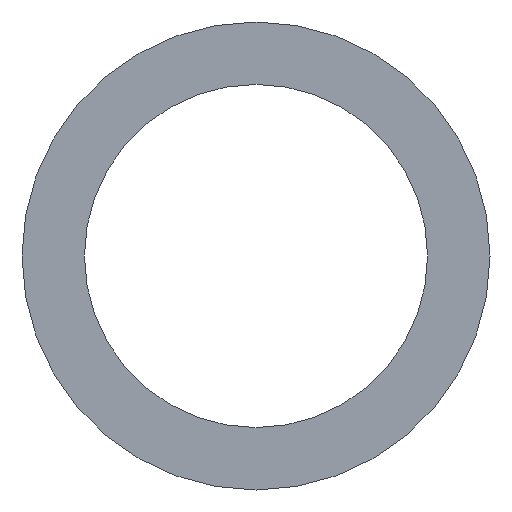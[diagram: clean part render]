
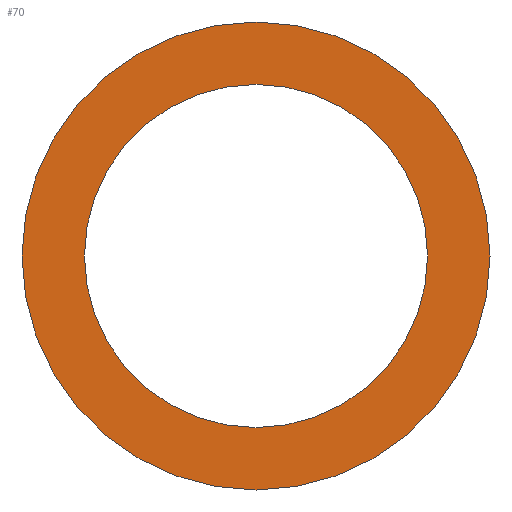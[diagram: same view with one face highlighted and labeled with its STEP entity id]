
A CAD part, front view. The second image highlights one B-rep face of the part: STEP entity #70.
In plain terms, the highlighted planar face has unit normal (0, -1, 0).
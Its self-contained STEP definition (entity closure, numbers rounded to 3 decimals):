
#31 = VERTEX_POINT('',#32);
#32 = CARTESIAN_POINT('',(0.,-31.9,51.75));
#38 = EDGE_CURVE('',#31,#31,#39,.T.);
#39 = CIRCLE('',#40,19.5);
#40 = AXIS2_PLACEMENT_3D('',#41,#42,#43);
#41 = CARTESIAN_POINT('',(0.,-31.9,32.25));
#42 = DIRECTION('',(0.,1.,0.));
#43 = DIRECTION('',(0.,0.,1.));
#70 = ADVANCED_FACE('',(#71,#74),#85,.F.);
#71 = FACE_BOUND('',#72,.F.);
#72 = EDGE_LOOP('',(#73));
#73 = ORIENTED_EDGE('',*,*,#38,.T.);
#74 = FACE_BOUND('',#75,.F.);
#75 = EDGE_LOOP('',(#76));
#76 = ORIENTED_EDGE('',*,*,#77,.F.);
#77 = EDGE_CURVE('',#78,#78,#80,.T.);
#78 = VERTEX_POINT('',#79);
#79 = CARTESIAN_POINT('',(0.,-31.9,46.55));
#80 = CIRCLE('',#81,14.3);
#81 = AXIS2_PLACEMENT_3D('',#82,#83,#84);
#82 = CARTESIAN_POINT('',(0.,-31.9,32.25));
#83 = DIRECTION('',(0.,1.,0.));
#84 = DIRECTION('',(0.,0.,1.));
#85 = PLANE('',#86);
#86 = AXIS2_PLACEMENT_3D('',#87,#88,#89);
#87 = CARTESIAN_POINT('',(0.,-31.9,32.25));
#88 = DIRECTION('',(0.,1.,0.));
#89 = DIRECTION('',(0.,0.,1.));
